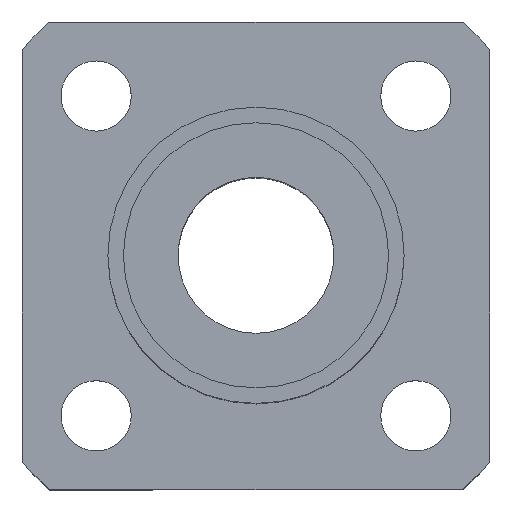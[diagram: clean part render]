
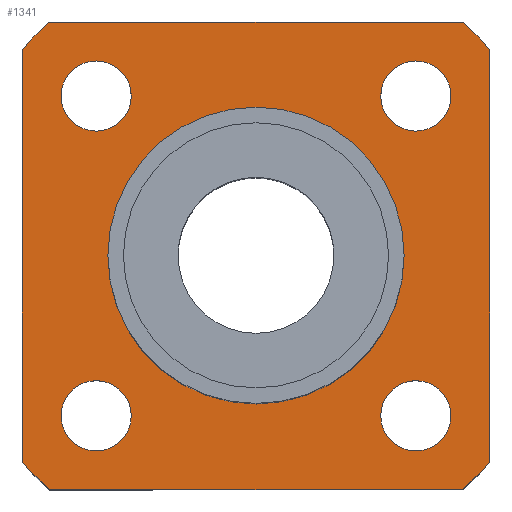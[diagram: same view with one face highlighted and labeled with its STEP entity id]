
A CAD part, top view. The second image highlights one B-rep face of the part: STEP entity #1341.
In plain terms, the highlighted planar face has unit normal (0, 0, 1).
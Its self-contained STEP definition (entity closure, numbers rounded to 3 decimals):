
#91=CARTESIAN_POINT('',(-23.531,3.294,6.0));
#92=VERTEX_POINT('',#91);
#101=CARTESIAN_POINT('',(-4.531,3.294,6.));
#102=VERTEX_POINT('',#101);
#103=CARTESIAN_POINT('',(-14.031,3.294,6.));
#104=DIRECTION('',(0.0,0.0,-1.0));
#105=DIRECTION('',(-1.0,0.0,0.0));
#106=AXIS2_PLACEMENT_3D('',#103,#104,#105);
#107=CIRCLE('',#106,9.5);
#108=EDGE_CURVE('',#102,#92,#107,.T.);
#217=CARTESIAN_POINT('',(-22.034,-6.959,6.));
#218=VERTEX_POINT('',#217);
#227=CARTESIAN_POINT('',(-26.534,-6.959,6.));
#228=VERTEX_POINT('',#227);
#229=CARTESIAN_POINT('',(-24.284,-6.959,6.));
#230=DIRECTION('',(0.0,0.0,-1.0));
#231=DIRECTION('',(1.0,0.0,0.0));
#232=AXIS2_PLACEMENT_3D('',#229,#230,#231);
#233=CIRCLE('',#232,2.25);
#234=EDGE_CURVE('',#228,#218,#233,.T.);
#301=CARTESIAN_POINT('',(-1.528,13.548,6.));
#302=VERTEX_POINT('',#301);
#311=CARTESIAN_POINT('',(-6.028,13.548,6.));
#312=VERTEX_POINT('',#311);
#313=CARTESIAN_POINT('',(-3.778,13.548,6.));
#314=DIRECTION('',(0.0,0.0,-1.0));
#315=DIRECTION('',(1.0,0.0,0.0));
#316=AXIS2_PLACEMENT_3D('',#313,#314,#315);
#317=CIRCLE('',#316,2.25);
#318=EDGE_CURVE('',#312,#302,#317,.T.);
#385=CARTESIAN_POINT('',(-22.034,13.548,6.));
#386=VERTEX_POINT('',#385);
#395=CARTESIAN_POINT('',(-26.534,13.548,6.));
#396=VERTEX_POINT('',#395);
#397=CARTESIAN_POINT('',(-24.284,13.548,6.));
#398=DIRECTION('',(0.0,0.0,-1.0));
#399=DIRECTION('',(1.0,0.0,0.0));
#400=AXIS2_PLACEMENT_3D('',#397,#398,#399);
#401=CIRCLE('',#400,2.25);
#402=EDGE_CURVE('',#396,#386,#401,.T.);
#469=CARTESIAN_POINT('',(-1.528,-6.959,6.));
#470=VERTEX_POINT('',#469);
#479=CARTESIAN_POINT('',(-6.028,-6.959,6.));
#480=VERTEX_POINT('',#479);
#481=CARTESIAN_POINT('',(-3.778,-6.959,6.));
#482=DIRECTION('',(0.0,0.0,-1.0));
#483=DIRECTION('',(1.0,0.0,0.0));
#484=AXIS2_PLACEMENT_3D('',#481,#482,#483);
#485=CIRCLE('',#484,2.25);
#486=EDGE_CURVE('',#480,#470,#485,.T.);
#686=CARTESIAN_POINT('',(-3.778,-6.959,6.));
#687=DIRECTION('',(0.0,0.0,-1.0));
#688=DIRECTION('',(1.0,0.0,0.0));
#689=AXIS2_PLACEMENT_3D('',#686,#687,#688);
#690=CIRCLE('',#689,2.25);
#691=EDGE_CURVE('',#470,#480,#690,.T.);
#748=CARTESIAN_POINT('',(-24.284,13.548,6.));
#749=DIRECTION('',(0.0,0.0,-1.0));
#750=DIRECTION('',(1.0,0.0,0.0));
#751=AXIS2_PLACEMENT_3D('',#748,#749,#750);
#752=CIRCLE('',#751,2.25);
#753=EDGE_CURVE('',#386,#396,#752,.T.);
#810=CARTESIAN_POINT('',(-3.778,13.548,6.));
#811=DIRECTION('',(0.0,0.0,-1.0));
#812=DIRECTION('',(1.0,0.0,0.0));
#813=AXIS2_PLACEMENT_3D('',#810,#811,#812);
#814=CIRCLE('',#813,2.25);
#815=EDGE_CURVE('',#302,#312,#814,.T.);
#872=CARTESIAN_POINT('',(-24.284,-6.959,6.));
#873=DIRECTION('',(0.0,0.0,-1.0));
#874=DIRECTION('',(1.0,0.0,0.0));
#875=AXIS2_PLACEMENT_3D('',#872,#873,#874);
#876=CIRCLE('',#875,2.25);
#877=EDGE_CURVE('',#218,#228,#876,.T.);
#1074=CARTESIAN_POINT('',(-14.031,3.294,6.));
#1075=DIRECTION('',(0.0,0.0,-1.0));
#1076=DIRECTION('',(-1.0,0.0,0.0));
#1077=AXIS2_PLACEMENT_3D('',#1074,#1075,#1076);
#1078=CIRCLE('',#1077,9.5);
#1079=EDGE_CURVE('',#92,#102,#1078,.T.);
#1115=CARTESIAN_POINT('',(-0.802,18.294,6.));
#1116=VERTEX_POINT('',#1115);
#1117=CARTESIAN_POINT('',(0.969,16.523,6.));
#1118=VERTEX_POINT('',#1117);
#1119=CARTESIAN_POINT('',(-14.031,3.294,6.));
#1120=DIRECTION('',(0.0,0.0,-1.0));
#1121=DIRECTION('',(0.75,0.661,0.0));
#1122=AXIS2_PLACEMENT_3D('',#1119,#1120,#1121);
#1123=CIRCLE('',#1122,20.0);
#1124=EDGE_CURVE('',#1116,#1118,#1123,.T.);
#1147=CARTESIAN_POINT('',(0.969,-9.934,6.));
#1148=VERTEX_POINT('',#1147);
#1149=CARTESIAN_POINT('',(0.969,16.523,6.));
#1150=DIRECTION('',(0.0,-1.0,0.0));
#1151=VECTOR('',#1150,26.458);
#1152=LINE('',#1149,#1151);
#1153=EDGE_CURVE('',#1118,#1148,#1152,.T.);
#1171=CARTESIAN_POINT('',(-0.802,-11.706,6.));
#1172=VERTEX_POINT('',#1171);
#1173=CARTESIAN_POINT('',(-14.031,3.294,6.));
#1174=DIRECTION('',(0.0,0.0,-1.0));
#1175=DIRECTION('',(0.661,-0.75,0.0));
#1176=AXIS2_PLACEMENT_3D('',#1173,#1174,#1175);
#1177=CIRCLE('',#1176,20.0);
#1178=EDGE_CURVE('',#1148,#1172,#1177,.T.);
#1196=CARTESIAN_POINT('',(-27.259,-11.706,6.));
#1197=VERTEX_POINT('',#1196);
#1198=CARTESIAN_POINT('',(-0.802,-11.706,6.));
#1199=DIRECTION('',(-1.0,0.0,0.0));
#1200=VECTOR('',#1199,26.458);
#1201=LINE('',#1198,#1200);
#1202=EDGE_CURVE('',#1172,#1197,#1201,.T.);
#1220=CARTESIAN_POINT('',(-29.031,-9.934,6.));
#1221=VERTEX_POINT('',#1220);
#1222=CARTESIAN_POINT('',(-14.031,3.294,6.));
#1223=DIRECTION('',(0.0,0.0,-1.0));
#1224=DIRECTION('',(-0.75,-0.661,0.0));
#1225=AXIS2_PLACEMENT_3D('',#1222,#1223,#1224);
#1226=CIRCLE('',#1225,20.0);
#1227=EDGE_CURVE('',#1197,#1221,#1226,.T.);
#1245=CARTESIAN_POINT('',(-29.031,16.523,6.));
#1246=VERTEX_POINT('',#1245);
#1247=CARTESIAN_POINT('',(-29.031,-9.934,6.));
#1248=DIRECTION('',(0.0,1.0,0.0));
#1249=VECTOR('',#1248,26.458);
#1250=LINE('',#1247,#1249);
#1251=EDGE_CURVE('',#1221,#1246,#1250,.T.);
#1269=CARTESIAN_POINT('',(-27.259,18.294,6.));
#1270=VERTEX_POINT('',#1269);
#1271=CARTESIAN_POINT('',(-14.031,3.294,6.));
#1272=DIRECTION('',(0.0,0.0,-1.0));
#1273=DIRECTION('',(-0.661,0.75,0.0));
#1274=AXIS2_PLACEMENT_3D('',#1271,#1272,#1273);
#1275=CIRCLE('',#1274,20.);
#1276=EDGE_CURVE('',#1246,#1270,#1275,.T.);
#1294=CARTESIAN_POINT('',(-27.259,18.294,6.));
#1295=DIRECTION('',(1.0,0.0,0.0));
#1296=VECTOR('',#1295,26.458);
#1297=LINE('',#1294,#1296);
#1298=EDGE_CURVE('',#1270,#1116,#1297,.T.);
#1306=CARTESIAN_POINT('',(-14.031,3.294,6.));
#1307=DIRECTION('',(0.0,0.0,1.0));
#1308=DIRECTION('',(1.0,0.0,0.0));
#1309=AXIS2_PLACEMENT_3D('',#1306,#1307,#1308);
#1310=PLANE('',#1309);
#1311=ORIENTED_EDGE('',*,*,#1124,.F.);
#1312=ORIENTED_EDGE('',*,*,#1298,.F.);
#1313=ORIENTED_EDGE('',*,*,#1276,.F.);
#1314=ORIENTED_EDGE('',*,*,#1251,.F.);
#1315=ORIENTED_EDGE('',*,*,#1227,.F.);
#1316=ORIENTED_EDGE('',*,*,#1202,.F.);
#1317=ORIENTED_EDGE('',*,*,#1178,.F.);
#1318=ORIENTED_EDGE('',*,*,#1153,.F.);
#1319=EDGE_LOOP('',(#1311,#1312,#1313,#1314,#1315,#1316,#1317,#1318));
#1320=FACE_OUTER_BOUND('',#1319,.T.);
#1321=ORIENTED_EDGE('',*,*,#486,.T.);
#1322=ORIENTED_EDGE('',*,*,#691,.T.);
#1323=EDGE_LOOP('',(#1321,#1322));
#1324=FACE_BOUND('',#1323,.T.);
#1325=ORIENTED_EDGE('',*,*,#402,.T.);
#1326=ORIENTED_EDGE('',*,*,#753,.T.);
#1327=EDGE_LOOP('',(#1325,#1326));
#1328=FACE_BOUND('',#1327,.T.);
#1329=ORIENTED_EDGE('',*,*,#318,.T.);
#1330=ORIENTED_EDGE('',*,*,#815,.T.);
#1331=EDGE_LOOP('',(#1329,#1330));
#1332=FACE_BOUND('',#1331,.T.);
#1333=ORIENTED_EDGE('',*,*,#234,.T.);
#1334=ORIENTED_EDGE('',*,*,#877,.T.);
#1335=EDGE_LOOP('',(#1333,#1334));
#1336=FACE_BOUND('',#1335,.T.);
#1337=ORIENTED_EDGE('',*,*,#108,.T.);
#1338=ORIENTED_EDGE('',*,*,#1079,.T.);
#1339=EDGE_LOOP('',(#1337,#1338));
#1340=FACE_BOUND('',#1339,.T.);
#1341=ADVANCED_FACE('',(#1320,#1324,#1328,#1332,#1336,#1340),#1310,.T.);
